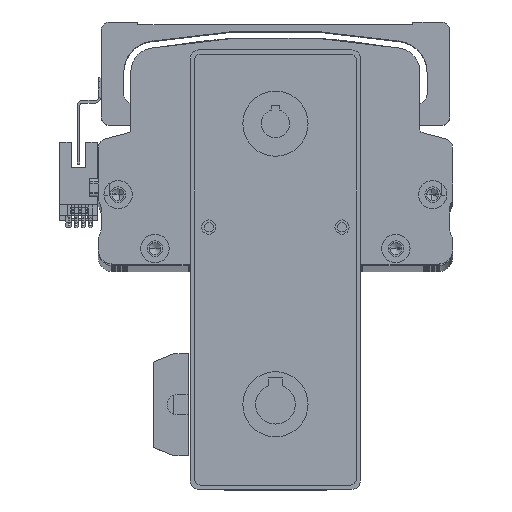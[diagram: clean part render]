
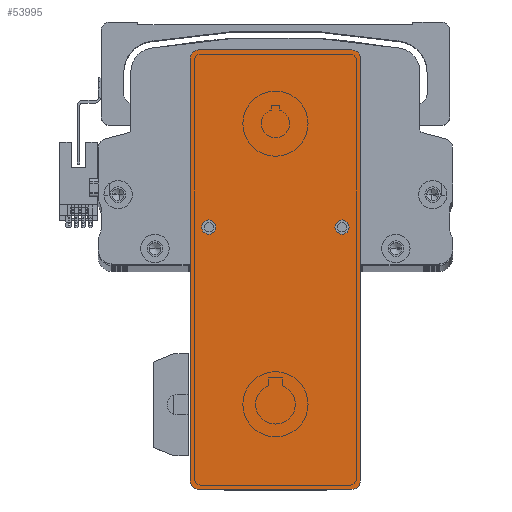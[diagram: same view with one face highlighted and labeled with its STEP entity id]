
A CAD part, top view. The second image highlights one B-rep face of the part: STEP entity #53995.
In plain terms, the highlighted planar face has unit normal (0, 0, 1) as drawn and (0, 0, -1) by its records, which use the part's own axes.
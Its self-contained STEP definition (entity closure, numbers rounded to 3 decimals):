
#79 = DIRECTION ( 'NONE',  ( 0., -1., 0. ) ) ;
#134 = AXIS2_PLACEMENT_3D ( 'NONE', #25616, #71289, #32078 ) ;
#1624 = CARTESIAN_POINT ( 'NONE',  ( 17.5, -23.5, 0. ) ) ;
#2206 = ORIENTED_EDGE ( 'NONE', *, *, #66188, .T. ) ;
#3861 = DIRECTION ( 'NONE',  ( -1., 0., 0. ) ) ;
#4311 = CARTESIAN_POINT ( 'NONE',  ( -74.5, -27., 0. ) ) ;
#4376 = LINE ( 'NONE', #39179, #71789 ) ;
#5951 = DIRECTION ( 'NONE',  ( 1., 0., 0. ) ) ;
#6561 = CARTESIAN_POINT ( 'NONE',  ( -74.5, 27., 0. ) ) ;
#7378 = DIRECTION ( 'NONE',  ( 0., 0., 1. ) ) ;
#9107 = CARTESIAN_POINT ( 'NONE',  ( 77.5, 30., 0. ) ) ;
#9266 = VECTOR ( 'NONE', #67874, 1000. ) ;
#9456 = DIRECTION ( 'NONE',  ( 0., 0., -1. ) ) ;
#10424 = EDGE_CURVE ( 'NONE', #59382, #80251, #14196, .T. ) ;
#10882 = DIRECTION ( 'NONE',  ( 1., 0., 0. ) ) ;
#11386 = CIRCLE ( 'NONE', #56950, 2.5 ) ;
#12070 = CIRCLE ( 'NONE', #134, 2.5 ) ;
#13093 = DIRECTION ( 'NONE',  ( 1., 0., 0. ) ) ;
#14196 = CIRCLE ( 'NONE', #76986, 2.5 ) ;
#14598 = ORIENTED_EDGE ( 'NONE', *, *, #16229, .F. ) ;
#16229 = EDGE_CURVE ( 'NONE', #80199, #56603, #12070, .T. ) ;
#16923 = CARTESIAN_POINT ( 'NONE',  ( 15., 23.5, 0. ) ) ;
#17157 = VERTEX_POINT ( 'NONE', #81436 ) ;
#18476 = EDGE_CURVE ( 'NONE', #71591, #72724, #27852, .T. ) ;
#20215 = EDGE_LOOP ( 'NONE', ( #59614, #65006, #43635, #2206, #58794, #39339, #70757, #82775 ) ) ;
#21353 = EDGE_CURVE ( 'NONE', #80251, #59382, #11386, .T. ) ;
#22073 = LINE ( 'NONE', #84125, #37266 ) ;
#23558 = DIRECTION ( 'NONE',  ( -1., 0., 0. ) ) ;
#23679 = EDGE_CURVE ( 'NONE', #70571, #41709, #22073, .T. ) ;
#25616 = CARTESIAN_POINT ( 'NONE',  ( 15., 23.5, 0. ) ) ;
#25983 = ORIENTED_EDGE ( 'NONE', *, *, #10424, .F. ) ;
#27135 = FACE_BOUND ( 'NONE', #29396, .T. ) ;
#27710 = CARTESIAN_POINT ( 'NONE',  ( 74.5, -30., 0. ) ) ;
#27852 = CIRCLE ( 'NONE', #58310, 3. ) ;
#28576 = LINE ( 'NONE', #9107, #9266 ) ;
#29396 = EDGE_LOOP ( 'NONE', ( #80556, #14598 ) ) ;
#32078 = DIRECTION ( 'NONE',  ( -1., 0., 0. ) ) ;
#32468 = VERTEX_POINT ( 'NONE', #43766 ) ;
#32770 = EDGE_LOOP ( 'NONE', ( #25983, #46344 ) ) ;
#33141 = DIRECTION ( 'NONE',  ( 0., 0., -1. ) ) ;
#33565 = LINE ( 'NONE', #63709, #66340 ) ;
#34314 = CARTESIAN_POINT ( 'NONE',  ( -74.5, -30., 0. ) ) ;
#36559 = CARTESIAN_POINT ( 'NONE',  ( 12.5, 23.5, 0. ) ) ;
#36681 = DIRECTION ( 'NONE',  ( 0., 0., -1. ) ) ;
#37266 = VECTOR ( 'NONE', #5951, 1000. ) ;
#37760 = CIRCLE ( 'NONE', #61095, 3. ) ;
#38049 = VERTEX_POINT ( 'NONE', #46973 ) ;
#39179 = CARTESIAN_POINT ( 'NONE',  ( -77.5, -30., 0. ) ) ;
#39339 = ORIENTED_EDGE ( 'NONE', *, *, #40097, .T. ) ;
#40097 = EDGE_CURVE ( 'NONE', #32468, #43042, #71993, .T. ) ;
#41709 = VERTEX_POINT ( 'NONE', #27710 ) ;
#42909 = DIRECTION ( 'NONE',  ( 0., 0., -1. ) ) ;
#43042 = VERTEX_POINT ( 'NONE', #83742 ) ;
#43635 = ORIENTED_EDGE ( 'NONE', *, *, #23679, .F. ) ;
#43766 = CARTESIAN_POINT ( 'NONE',  ( -77.5, 27., 0. ) ) ;
#44471 = FACE_OUTER_BOUND ( 'NONE', #20215, .T. ) ;
#45612 = CIRCLE ( 'NONE', #81338, 2.5 ) ;
#46344 = ORIENTED_EDGE ( 'NONE', *, *, #21353, .F. ) ;
#46397 = CARTESIAN_POINT ( 'NONE',  ( 0., 0., 0. ) ) ;
#46973 = CARTESIAN_POINT ( 'NONE',  ( 77.5, -27., 0. ) ) ;
#48454 = CARTESIAN_POINT ( 'NONE',  ( 15., -23.5, 0. ) ) ;
#49908 = DIRECTION ( 'NONE',  ( 0., 0., -1. ) ) ;
#51955 = EDGE_CURVE ( 'NONE', #71591, #43042, #28576, .T. ) ;
#52120 = DIRECTION ( 'NONE',  ( 0., 0., -1. ) ) ;
#52660 = AXIS2_PLACEMENT_3D ( 'NONE', #6561, #52120, #13093 ) ;
#52936 = DIRECTION ( 'NONE',  ( 1., 0., 0. ) ) ;
#53995 = ADVANCED_FACE ( 'NONE', ( #27135, #79321, #44471 ), #72151, .F. ) ;
#55038 = DIRECTION ( 'NONE',  ( -1., 0., 0. ) ) ;
#55390 = AXIS2_PLACEMENT_3D ( 'NONE', #4311, #49908, #10882 ) ;
#56222 = CIRCLE ( 'NONE', #55390, 3. ) ;
#56603 = VERTEX_POINT ( 'NONE', #36559 ) ;
#56950 = AXIS2_PLACEMENT_3D ( 'NONE', #82072, #42909, #3861 ) ;
#57358 = CARTESIAN_POINT ( 'NONE',  ( 77.5, 27., 0. ) ) ;
#58310 = AXIS2_PLACEMENT_3D ( 'NONE', #72373, #33141, #78949 ) ;
#58794 = ORIENTED_EDGE ( 'NONE', *, *, #78952, .F. ) ;
#59308 = CARTESIAN_POINT ( 'NONE',  ( 17.5, 23.5, 0. ) ) ;
#59382 = VERTEX_POINT ( 'NONE', #70524 ) ;
#59614 = ORIENTED_EDGE ( 'NONE', *, *, #81072, .F. ) ;
#61095 = AXIS2_PLACEMENT_3D ( 'NONE', #75924, #36681, #82445 ) ;
#61589 = EDGE_CURVE ( 'NONE', #38049, #41709, #37760, .T. ) ;
#62649 = DIRECTION ( 'NONE',  ( 0., 0., -1. ) ) ;
#63709 = CARTESIAN_POINT ( 'NONE',  ( 77.5, -30., 0. ) ) ;
#65006 = ORIENTED_EDGE ( 'NONE', *, *, #61589, .T. ) ;
#66188 = EDGE_CURVE ( 'NONE', #70571, #17157, #56222, .T. ) ;
#66340 = VECTOR ( 'NONE', #70292, 1000. ) ;
#67874 = DIRECTION ( 'NONE',  ( -1., 0., 0. ) ) ;
#70292 = DIRECTION ( 'NONE',  ( 0., 1., 0. ) ) ;
#70524 = CARTESIAN_POINT ( 'NONE',  ( 12.5, -23.5, 0. ) ) ;
#70571 = VERTEX_POINT ( 'NONE', #34314 ) ;
#70757 = ORIENTED_EDGE ( 'NONE', *, *, #51955, .F. ) ;
#71289 = DIRECTION ( 'NONE',  ( 0., 0., -1. ) ) ;
#71591 = VERTEX_POINT ( 'NONE', #76786 ) ;
#71789 = VECTOR ( 'NONE', #79, 1000. ) ;
#71993 = CIRCLE ( 'NONE', #52660, 3. ) ;
#72151 = PLANE ( 'NONE',  #81216 ) ;
#72373 = CARTESIAN_POINT ( 'NONE',  ( 74.5, 27., 0. ) ) ;
#72724 = VERTEX_POINT ( 'NONE', #57358 ) ;
#75924 = CARTESIAN_POINT ( 'NONE',  ( 74.5, -27., 0. ) ) ;
#76786 = CARTESIAN_POINT ( 'NONE',  ( 74.5, 30., 0. ) ) ;
#76986 = AXIS2_PLACEMENT_3D ( 'NONE', #48454, #9456, #55038 ) ;
#78949 = DIRECTION ( 'NONE',  ( 1., 0., 0. ) ) ;
#78952 = EDGE_CURVE ( 'NONE', #32468, #17157, #4376, .T. ) ;
#79321 = FACE_BOUND ( 'NONE', #32770, .T. ) ;
#80199 = VERTEX_POINT ( 'NONE', #59308 ) ;
#80251 = VERTEX_POINT ( 'NONE', #1624 ) ;
#80556 = ORIENTED_EDGE ( 'NONE', *, *, #82794, .F. ) ;
#81072 = EDGE_CURVE ( 'NONE', #38049, #72724, #33565, .T. ) ;
#81216 = AXIS2_PLACEMENT_3D ( 'NONE', #46397, #7378, #52936 ) ;
#81338 = AXIS2_PLACEMENT_3D ( 'NONE', #16923, #62649, #23558 ) ;
#81436 = CARTESIAN_POINT ( 'NONE',  ( -77.5, -27., 0. ) ) ;
#82072 = CARTESIAN_POINT ( 'NONE',  ( 15., -23.5, 0. ) ) ;
#82445 = DIRECTION ( 'NONE',  ( 1., 0., 0. ) ) ;
#82775 = ORIENTED_EDGE ( 'NONE', *, *, #18476, .T. ) ;
#82794 = EDGE_CURVE ( 'NONE', #56603, #80199, #45612, .T. ) ;
#83742 = CARTESIAN_POINT ( 'NONE',  ( -74.5, 30., 0. ) ) ;
#84125 = CARTESIAN_POINT ( 'NONE',  ( 77.5, -30., 0. ) ) ;
